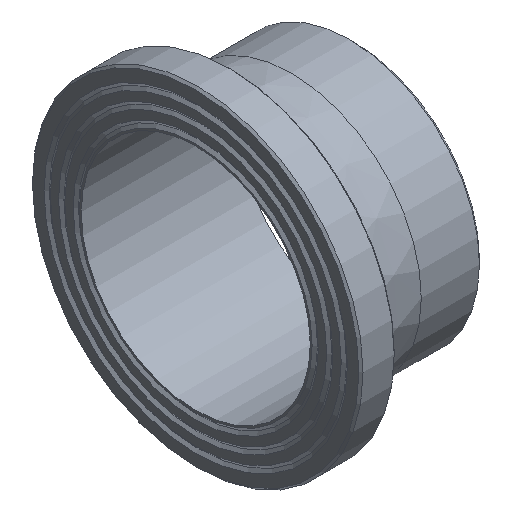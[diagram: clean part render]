
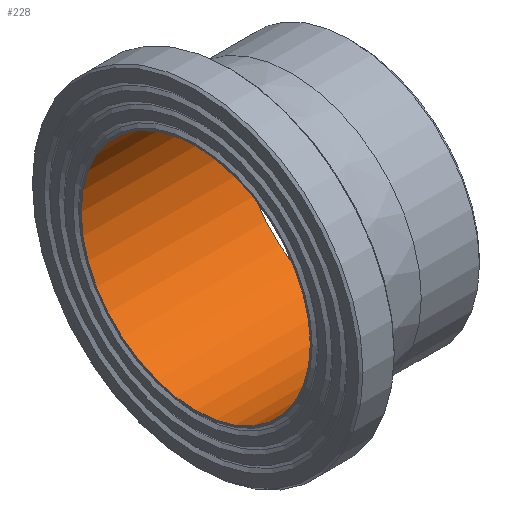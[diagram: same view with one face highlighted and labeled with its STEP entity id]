
A CAD part, isometric view. The second image highlights one B-rep face of the part: STEP entity #228.
In plain terms, the highlighted cylindrical face has radius 55.1 mm (diameter 110.2 mm), a full revolution.
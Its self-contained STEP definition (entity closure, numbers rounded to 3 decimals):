
#33=CYLINDRICAL_SURFACE('',#274,55.1);
#50=ORIENTED_EDGE('',*,*,#79,.F.);
#51=ORIENTED_EDGE('',*,*,#76,.T.);
#76=EDGE_CURVE('',#96,#96,#116,.T.);
#79=EDGE_CURVE('',#99,#99,#119,.T.);
#96=VERTEX_POINT('',#383);
#99=VERTEX_POINT('',#390);
#116=CIRCLE('',#257,55.1);
#119=CIRCLE('',#261,55.1);
#150=EDGE_LOOP('',(#50));
#151=EDGE_LOOP('',(#51));
#190=FACE_BOUND('',#150,.T.);
#191=FACE_BOUND('',#151,.T.);
#228=ADVANCED_FACE('',(#190,#191),#33,.F.);
#257=AXIS2_PLACEMENT_3D('',#382,#303,#304);
#261=AXIS2_PLACEMENT_3D('',#389,#311,#312);
#274=AXIS2_PLACEMENT_3D('',#410,#337,#338);
#303=DIRECTION('',(-1.,0.,0.));
#304=DIRECTION('',(0.,0.,1.));
#311=DIRECTION('',(-1.,0.,0.));
#312=DIRECTION('',(0.,0.,1.));
#337=DIRECTION('',(-1.,0.,0.));
#338=DIRECTION('',(0.,0.,1.));
#382=CARTESIAN_POINT('',(0.,0.,0.));
#383=CARTESIAN_POINT('',(0.,0.,55.1));
#389=CARTESIAN_POINT('',(76.,0.,0.));
#390=CARTESIAN_POINT('',(76.,0.,55.1));
#410=CARTESIAN_POINT('',(60.,0.,0.));
